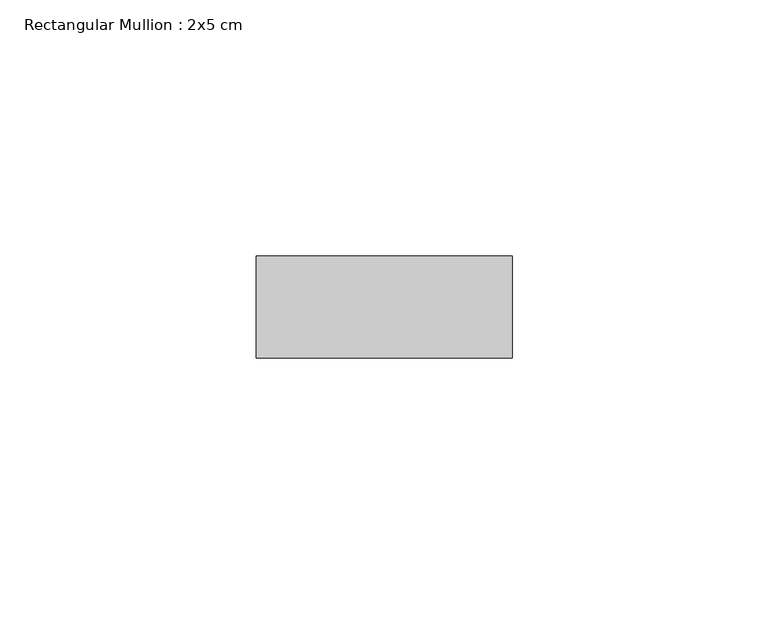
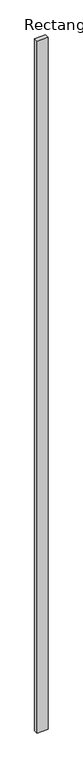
"""IFC4 building model written with IfcOpenShell, lengths in millimetres: member geometry, Rectangular Mullion : 2x5 cm."""

from ifc_helpers import new_model, si_unit, frame, origin, place, context, project, spatial, polyline, outline, extrude, source, transform, mapped, element, save


def rectangular_mullion_2x5_cm_21e4da5e(model_context):
    return source(origin(), model_context, "Body", "SweptSolid", [
        extrude(outline(polyline([(50.0, 20.0), (50.0, 0.0), (0.0, 0.0), (0.0, 20.0), (50.0, 20.0)])), frame((0.0, 0.0, -3366.7918673), z_axis=(0.0, 0.0, 1.0), x_axis=(1.0, 0.0, 0.0)), (0.0, 0.0, 1.0), 3366.7918673),
    ])


if __name__ == "__main__":
    model = new_model("IFC4")
    model_context = context("Model", 3, world=origin())
    ifc_project = project(units=[si_unit("LENGTHUNIT", "METRE", prefix="MILLI")], contexts=[model_context])
    site = spatial("IfcSite", under=ifc_project)
    building = spatial("IfcBuilding", under=site)
    placement = place(None, origin())
    rectangular_mullion_2x5_cm_shape = rectangular_mullion_2x5_cm_21e4da5e(model_context)
    element("IfcMember", 1, ObjectType="Rectangular Mullion : 2x5 cm", at=placement, inside=building, context=model_context, shape_type="MappedRepresentation", body=[
        mapped(rectangular_mullion_2x5_cm_shape, transform((0.0, 0.0, 0.0), x_axis=(1.0, 0.0, 0.0), y_axis=(0.0, 1.0, 0.0), z_axis=(0.0, 0.0, 1.0))),
    ])
    save(model, "model.ifc")
